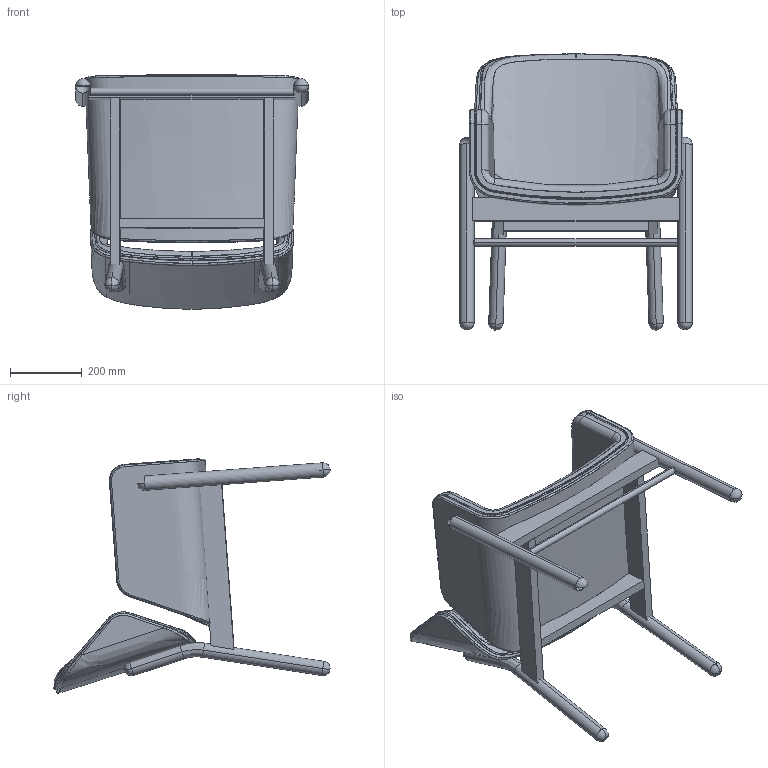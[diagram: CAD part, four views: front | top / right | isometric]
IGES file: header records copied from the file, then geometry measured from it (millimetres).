
Start section: SolidWorks IGES file using analytic representation for surfaces
Global section: file name: C:\Users\adao\Documents\Trab Adao\Desenho técnico PRODUÇÃO\J M S\Catalogo MORE 2016\ADELE\POLTRONA\3D Poltrona ADELE\3D Poltrona ADELE M947.IGS; native system: SolidWorks 2018; preprocessor: SolidWorks 2018; author: Adao; date: 180720.160851; units: millimetre
Bounding box: 650 x 772.76 x 655.53 mm (x, y, z)
Surface area: 3496806.5 mm2 (no closed solid volume)
Topology: 0 solids, 0 shells, 226 faces, 4998 edges, 4988 vertices
Faces by surface type: bspline 164, revolution 62
